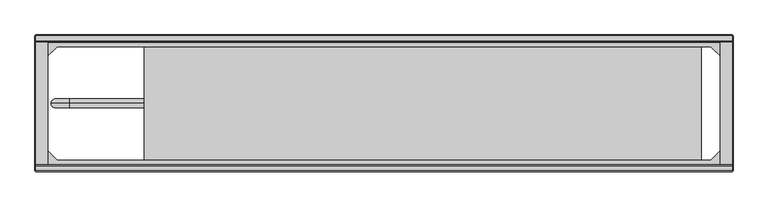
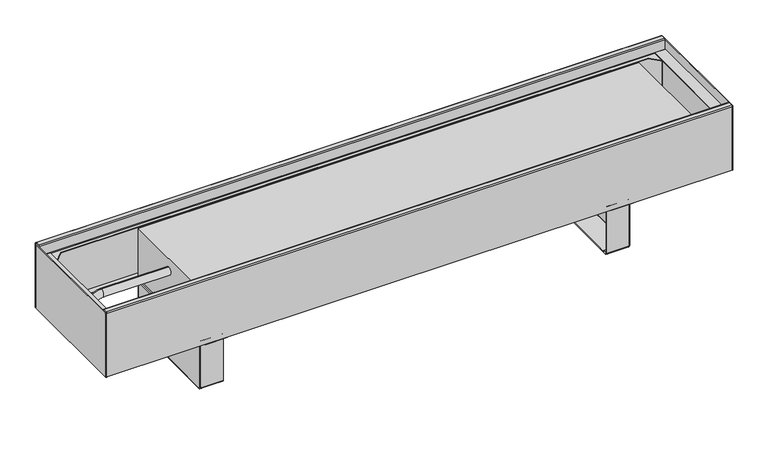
"""IFC4 building model written with IfcOpenShell, lengths in millimetres: proxy geometry, TECHNO_Конвектор напольный_Vita KPZ 235 : KPZ 235-130."""

from ifc_helpers import new_model, si_unit, point, frame, origin, place, context, project, spatial, polyline, circle_curve, ellipse_curve, trimmed, outline, extrude, source, transform, mapped, element, save
from ifc_brep_helpers import plane_surface, cylinder_surface, revolved_surface, advanced_brep


def mechanical_equipment_f0267359(model_context):
    return source(origin(), model_context, "Body", "SolidModel", [
        advanced_brep(
        [(409.7, -116.8, 1.5), (409.7, -114.5, 3.8), (409.7, -114.5, 4.9), (409.7, -116.0, 4.9), (409.7, -116.0, 3.8), (409.7, -116.8, 3.0), (409.7, -124.5, 3.0), (409.7, -124.5, 1.5), (409.7, -117.6, 1.5), (409.7, -114.5, 97.7), (409.7, -113.7, 98.5), (409.7, -101.0, 98.5), (409.7, -101.0, 100.0), (409.7, -113.7, 100.0), (409.7, -116.0, 97.7), (409.7, -116.0, 95.5), (409.7, -114.5, 95.5), (409.7, -320.5, 3.8), (409.7, -318.2, 1.5), (409.7, -317.4, 1.5), (409.7, -310.5, 1.5), (409.7, -310.5, 3.0), (409.7, -318.2, 3.0), (409.7, -319.0, 3.8), (409.7, -319.0, 4.9), (409.7, -320.5, 4.9), (409.7, -319.0, 97.7), (409.7, -321.3, 100.0), (409.7, -334.0, 100.0), (409.7, -334.0, 98.5), (409.7, -321.3, 98.5), (409.7, -320.5, 97.7), (409.7, -320.5, 95.5), (409.7, -319.0, 95.5), (367.0, -320.5, 97.7), (367.0, -321.3, 98.5), (367.0, -334.0, 98.5), (367.0, -334.0, 100.0), (367.0, -321.3, 100.0), (367.0, -319.0, 97.7), (367.0, -319.0, 3.8), (367.0, -318.2, 3.0), (367.0, -310.5, 3.0), (367.0, -310.5, 1.5), (367.0, -124.5, 1.5), (367.0, -124.5, 3.0), (367.0, -116.8, 3.0), (367.0, -116.0, 3.8), (367.0, -116.0, 97.7), (367.0, -113.7, 100.0), (367.0, -101.0, 100.0), (367.0, -101.0, 98.5), (367.0, -113.7, 98.5), (367.0, -114.5, 97.7), (367.0, -114.5, 3.8), (367.0, -116.8, 1.5), (367.0, -117.6, 1.5), (367.0, -117.6, 0.0), (367.0, -317.4, 0.0), (367.0, -317.4, 1.5), (367.0, -318.2, 1.5), (367.0, -320.5, 3.8), (410.5, -116.8, 95.5), (410.5, -318.2, 95.5), (412.0, -318.2, 95.5), (412.0, -116.8, 95.5), (412.0, -116.8, 4.9), (412.0, -117.6, 4.9), (410.5, -117.6, 4.9), (410.5, -116.8, 4.9), (410.5, -318.2, 4.9), (410.5, -317.4, 4.9), (412.0, -317.4, 4.9), (412.0, -318.2, 4.9), (410.5, -117.6, 2.3), (410.5, -317.4, 2.3), (411.9999999, -317.4, 2.3), (412.0, -117.6, 2.3), (409.7, -117.6, 0.0), (409.7, -317.4, 0.0)],
        [
            (0, 1, circle_curve(frame((409.7, -116.8, 3.8), z_axis=(1.0, 0.0, 0.0), x_axis=(0.0, -1.0, 0.0)), 2.3)),
            (1, 2),
            (2, 3),
            (3, 4),
            (4, 5, circle_curve(frame((409.7, -116.8, 3.8), z_axis=(-1.0, 0.0, 0.0), x_axis=(0.0, -1.0, 0.0)), 0.8)),
            (5, 6),
            (6, 7),
            (7, 8),
            (8, 0),
            (9, 10, circle_curve(frame((409.7, -113.7, 97.7), z_axis=(-1.0, 0.0, 0.0), x_axis=(0.0, -1.0, 0.0)), 0.8)),
            (10, 11),
            (11, 12),
            (12, 13),
            (13, 14, circle_curve(frame((409.7, -113.7, 97.7), z_axis=(1.0, 0.0, 0.0), x_axis=(0.0, -1.0, 0.0)), 2.3)),
            (14, 15),
            (15, 16),
            (16, 9),
            (17, 18, circle_curve(frame((409.7, -318.2, 3.8), z_axis=(1.0, 0.0, 0.0), x_axis=(0.0, -1.0, 0.0)), 2.3)),
            (18, 19),
            (19, 20),
            (20, 21),
            (21, 22),
            (22, 23, circle_curve(frame((409.7, -318.2, 3.8), z_axis=(-1.0, 0.0, 0.0), x_axis=(0.0, -1.0, 0.0)), 0.8)),
            (23, 24),
            (24, 25),
            (25, 17),
            (26, 27, circle_curve(frame((409.7, -321.3, 97.7), z_axis=(1.0, 0.0, 0.0), x_axis=(0.0, -1.0, 0.0)), 2.3)),
            (27, 28),
            (28, 29),
            (29, 30),
            (30, 31, circle_curve(frame((409.7, -321.3, 97.7), z_axis=(-1.0, 0.0, 0.0), x_axis=(0.0, -1.0, 0.0)), 0.8)),
            (31, 32),
            (32, 33),
            (33, 26),
            (34, 35, circle_curve(frame((367.0, -321.3, 97.7), z_axis=(1.0, 0.0, 0.0), x_axis=(0.0, -1.0, 0.0)), 0.8)),
            (35, 36),
            (36, 37),
            (37, 38),
            (38, 39, circle_curve(frame((367.0, -321.3, 97.7), z_axis=(-1.0, 0.0, 0.0), x_axis=(0.0, -1.0, 0.0)), 2.3)),
            (39, 40),
            (40, 41, circle_curve(frame((367.0, -318.2, 3.8), z_axis=(1.0, 0.0, 0.0), x_axis=(0.0, -1.0, 0.0)), 0.8)),
            (41, 42),
            (42, 43),
            (43, 44),
            (44, 45),
            (45, 46),
            (46, 47, circle_curve(frame((367.0, -116.8, 3.8), z_axis=(1.0, 0.0, 0.0), x_axis=(0.0, -1.0, 0.0)), 0.8)),
            (47, 48),
            (48, 49, circle_curve(frame((367.0, -113.7, 97.7), z_axis=(-1.0, 0.0, 0.0), x_axis=(0.0, -1.0, 0.0)), 2.3)),
            (49, 50),
            (50, 51),
            (51, 52),
            (52, 53, circle_curve(frame((367.0, -113.7, 97.7), z_axis=(1.0, 0.0, 0.0), x_axis=(0.0, -1.0, 0.0)), 0.8)),
            (53, 54),
            (54, 55, circle_curve(frame((367.0, -116.8, 3.8), z_axis=(-1.0, 0.0, 0.0), x_axis=(0.0, -1.0, 0.0)), 2.3)),
            (55, 56),
            (56, 57),
            (57, 58),
            (58, 59),
            (59, 60),
            (60, 61, circle_curve(frame((367.0, -318.2, 3.8), z_axis=(-1.0, 0.0, 0.0), x_axis=(0.0, -1.0, 0.0)), 2.3)),
            (61, 34),
            (30, 35),
            (34, 31),
            (29, 36),
            (28, 37),
            (27, 38),
            (26, 39),
            (33, 24),
            (23, 40),
            (22, 41),
            (5, 46),
            (45, 6),
            (4, 47),
            (3, 15),
            (14, 48),
            (13, 49),
            (12, 50),
            (11, 51),
            (10, 52),
            (9, 53),
            (16, 2),
            (1, 54),
            (0, 55),
            (8, 56),
            (17, 61),
            (60, 18),
            (25, 32),
            (21, 42),
            (20, 43),
            (59, 19),
            (44, 7),
            (15, 62, circle_curve(frame((409.7, -116.8, 95.5), z_axis=(0.0, 0.0, -1.0), x_axis=(-1.0, 0.0, 0.0)), 0.8)),
            (62, 63),
            (63, 33, circle_curve(frame((409.7, -318.2, 95.5), z_axis=(0.0, 0.0, -1.0), x_axis=(-1.0, 0.0, 0.0)), 0.8)),
            (32, 64, circle_curve(frame((409.7, -318.2, 95.5), z_axis=(0.0, 0.0, 1.0), x_axis=(-1.0, 0.0, 0.0)), 2.3)),
            (64, 65),
            (65, 16, circle_curve(frame((409.7, -116.8, 95.5), z_axis=(0.0, 0.0, 1.0), x_axis=(-1.0, 0.0, 0.0)), 2.3)),
            (2, 66, circle_curve(frame((409.7, -116.8, 4.9), z_axis=(0.0, 0.0, -1.0), x_axis=(-1.0, 0.0, 0.0)), 2.3)),
            (66, 67),
            (67, 68),
            (68, 69),
            (69, 3, circle_curve(frame((409.7, -116.8, 4.9), z_axis=(0.0, 0.0, 1.0), x_axis=(-1.0, 0.0, 0.0)), 0.8)),
            (24, 70, circle_curve(frame((409.7, -318.2, 4.9), z_axis=(0.0, 0.0, 1.0), x_axis=(-1.0, 0.0, 0.0)), 0.8)),
            (70, 71),
            (71, 72),
            (72, 73),
            (73, 25, circle_curve(frame((409.7, -318.2, 4.9), z_axis=(0.0, 0.0, -1.0), x_axis=(-1.0, 0.0, 0.0)), 2.3)),
            (69, 62),
            (68, 74),
            (74, 75),
            (75, 71),
            (70, 63),
            (64, 73),
            (72, 76),
            (76, 77),
            (77, 67),
            (66, 65),
            (8, 74, circle_curve(frame((409.7, -117.6, 2.3), z_axis=(0.0, -1.0, 0.0), x_axis=(-1.0, 0.0, 0.0)), 0.8)),
            (77, 78, circle_curve(frame((409.7, -117.6, 2.3), z_axis=(0.0, 1.0, 0.0), x_axis=(-1.0, 0.0, 0.0)), 2.3)),
            (78, 57),
            (58, 79),
            (79, 76, circle_curve(frame((409.7, -317.4, 2.3), z_axis=(0.0, -1.0, 0.0), x_axis=(-1.0, 0.0, 0.0)), 2.3)),
            (75, 19, circle_curve(frame((409.7, -317.4, 2.3), z_axis=(0.0, 1.0, 0.0), x_axis=(-1.0, 0.0, 0.0)), 0.8)),
            (20, 7),
            (79, 78),
        ],
        [
            plane_surface(frame((409.7, -322.1, 97.7), z_axis=(1.0, 0.0, 0.0), x_axis=(0.0, 0.0, 1.0))),
            plane_surface(frame((367.0, -322.1, 97.7), z_axis=(-1.0, 0.0, 0.0), x_axis=(0.0, 0.0, -1.0))),
            revolved_surface(polyline([(409.7, -322.1, 97.7), (367.0, -322.1, 97.7)]), (409.7, -321.3, 97.7), (1.0, 0.0, 0.0)),
            plane_surface(frame((367.0, -321.3, 98.5), z_axis=(0.0, 0.0, -1.0), x_axis=(1.0, 0.0, 0.0))),
            plane_surface(frame((367.0, -334.0, 98.5), z_axis=(0.0, -1.0, 0.0), x_axis=(1.0, 0.0, 0.0))),
            plane_surface(frame((367.0, -334.0, 100.0), z_axis=(0.0, 0.0, 1.0), x_axis=(1.0, 0.0, 0.0))),
            cylinder_surface(frame((409.7, -321.3, 97.7), z_axis=(-1.0, 0.0, 0.0), x_axis=(0.0, -1.0, 0.0)), 2.3),
            plane_surface(frame((367.0, -319.0, 97.7), z_axis=(0.0, 1.0, 3.691903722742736e-12), x_axis=(1.0, 0.0, 0.0))),
            revolved_surface(polyline([(409.7, -319.0, 3.8), (367.0, -319.0, 3.8)]), (409.7, -318.2, 3.8), (1.0, 0.0, 0.0)),
            plane_surface(frame((367.0, -124.5, 3.0), z_axis=(0.0, 0.0, 1.0), x_axis=(1.0, 0.0, 0.0))),
            revolved_surface(polyline([(409.7, -117.6, 3.8), (367.0, -117.6, 3.8)]), (412.0, -116.8, 3.8), (1.0, 0.0, 0.0)),
            plane_surface(frame((367.0, -116.0, 3.8), z_axis=(0.0, -1.0, 0.0), x_axis=(1.0, 0.0, 0.0))),
            cylinder_surface(frame((412.0, -113.7, 97.7), z_axis=(-1.0, 0.0, 0.0), x_axis=(0.0, -1.0, 0.0)), 2.3),
            plane_surface(frame((367.0, -113.7, 100.0), z_axis=(0.0, 0.0, 1.0), x_axis=(1.0, 0.0, 0.0))),
            plane_surface(frame((367.0, -101.0, 100.0), z_axis=(0.0, 1.0, 0.0), x_axis=(1.0, 0.0, 0.0))),
            plane_surface(frame((367.0, -101.0, 98.5), z_axis=(0.0, 0.0, -1.0), x_axis=(1.0, 0.0, 0.0))),
            revolved_surface(polyline([(409.7, -114.5, 97.7), (367.0, -114.5, 97.7)]), (412.0, -113.7, 97.7), (1.0, 0.0, 0.0)),
            plane_surface(frame((367.0, -114.5, 97.7), z_axis=(0.0, 1.0, 0.0), x_axis=(1.0, 0.0, 0.0))),
            cylinder_surface(frame((412.0, -116.8, 3.8), z_axis=(-1.0, 0.0, 0.0), x_axis=(0.0, -1.0, 0.0)), 2.3),
            plane_surface(frame((367.0, -116.8, 1.5), z_axis=(0.0, 0.0, -1.0), x_axis=(1.0, 0.0, 0.0))),
            cylinder_surface(frame((409.7, -318.2, 3.8), z_axis=(-1.0, 0.0, 0.0), x_axis=(0.0, -1.0, 0.0)), 2.3),
            plane_surface(frame((367.0, -320.5, 3.8), z_axis=(0.0, -1.0, 0.0), x_axis=(1.0, 0.0, 0.0))),
            plane_surface(frame((367.0, -318.2, 3.0), z_axis=(0.0, 0.0, 1.0), x_axis=(1.0, 0.0, 0.0))),
            plane_surface(frame((367.0, -310.5, 3.0), z_axis=(0.0, 1.0, 0.0), x_axis=(1.0, 0.0, 0.0))),
            plane_surface(frame((367.0, -310.5, 1.5), z_axis=(0.0, 0.0, -1.0), x_axis=(1.0, 0.0, 0.0))),
            plane_surface(frame((367.0, -124.5, 1.5), z_axis=(0.0, -1.0, 0.0), x_axis=(1.0, 0.0, 0.0))),
            plane_surface(frame((409.7, -116.0, 95.5), z_axis=(0.0, 0.0, 1.0), x_axis=(0.0, -1.0, 0.0))),
            plane_surface(frame((409.7, -116.0, 4.9), z_axis=(0.0, 0.0, -1.0), x_axis=(0.0, 1.0, 0.0))),
            revolved_surface(polyline([(408.9, -116.8, 4.9), (408.9, -116.8, 95.5)]), (409.7, -116.8, 4.9), (0.0, 0.0, -1.0)),
            plane_surface(frame((410.5, -116.8, 95.5), z_axis=(-1.0, 0.0, 0.0), x_axis=(0.0, 0.0, -1.0))),
            plane_surface(frame((412.0, -117.6, 95.5), z_axis=(1.0, -4.3226800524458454e-10, 0.0), x_axis=(0.0, 0.0, -1.0))),
            cylinder_surface(frame((409.7, -116.8, 4.9), z_axis=(0.0, 0.0, 1.0), x_axis=(-1.0, 0.0, 0.0)), 2.3),
            cylinder_surface(frame((409.7, -318.2, 0.0), z_axis=(0.0, 0.0, 1.0), x_axis=(-1.0, 0.0, 0.0)), 2.3),
            revolved_surface(polyline([(408.9, -318.2, 4.9), (408.9, -318.2, 95.5)]), (409.7, -318.2, 0.0), (0.0, 0.0, -1.0)),
            plane_surface(frame((367.0, -117.6, 1.5), z_axis=(0.0, 1.0, 0.0), x_axis=(0.0, 0.0, 1.0))),
            plane_surface(frame((367.0, -317.4, 1.5), z_axis=(0.0, -1.0, 0.0), x_axis=(0.0, 0.0, -1.0))),
            plane_surface(frame((367.0, -117.6, 1.5), z_axis=(0.0, 0.0, 1.0), x_axis=(0.0, -1.0, 0.0))),
            revolved_surface(polyline([(408.9, -317.4, 2.3), (408.9, -117.6, 2.3)]), (409.7, -317.4, 2.3), (0.0, -1.0, 0.0)),
            cylinder_surface(frame((409.7, -317.4, 2.3), z_axis=(0.0, 1.0, 0.0), x_axis=(-1.0, 0.0, 0.0)), 2.3),
            plane_surface(frame((409.7, -117.6, 0.0), z_axis=(0.0, 0.0, -1.0), x_axis=(0.0, -1.0, 0.0))),
        ],
        [
            (0, [[1, 2, 3, 4, 5, 6, 7, 8, 9]]),
            (0, [[10, 11, 12, 13, 14, 15, 16, 17]]),
            (0, [[18, 19, 20, 21, 22, 23, 24, 25, 26]]),
            (0, [[27, 28, 29, 30, 31, 32, 33, 34]]),
            (1, [[35, 36, 37, 38, 39, 40, 41, 42, 43, 44, 45, 46, 47, 48, 49, 50, 51, 52, 53, 54, 55, 56, 57, 58, 59, 60, 61, 62]]),
            (2, [[-31, 63, -35, 64]]),
            (3, [[-30, 65, -36, -63]]),
            (4, [[-29, 66, -37, -65]]),
            (5, [[-28, 67, -38, -66]]),
            (6, [[-27, 68, -39, -67]]),
            (7, [[-40, -68, -34, 69, -24, 70]]),
            (8, [[-23, 71, -41, -70]]),
            (9, [[-6, 72, -46, 73]]),
            (10, [[-5, 74, -47, -72]]),
            (11, [[-48, -74, -4, 75, -15, 76]]),
            (12, [[-14, 77, -49, -76]]),
            (13, [[-13, 78, -50, -77]]),
            (14, [[-12, 79, -51, -78]]),
            (15, [[-11, 80, -52, -79]]),
            (16, [[-10, 81, -53, -80]]),
            (17, [[-54, -81, -17, 82, -2, 83]]),
            (18, [[-1, 84, -55, -83]]),
            (19, [[-84, -9, 85, -56]]),
            (20, [[-18, 86, -61, 87]]),
            (21, [[-62, -86, -26, 88, -32, -64]]),
            (22, [[-22, 89, -42, -71]]),
            (23, [[-21, 90, -43, -89]]),
            (24, [[-87, -60, 91, -19]]),
            (25, [[-7, -73, -45, 92]]),
            (26, [[93, 94, 95, -33, 96, 97, 98, -16]]),
            (27, [[99, 100, 101, 102, 103, -3]]),
            (27, [[104, 105, 106, 107, 108, -25]]),
            (28, [[-93, -75, -103, 109]]),
            (29, [[-94, -109, -102, 110, 111, 112, -105, 113]]),
            (30, [[-97, 114, -107, 115, 116, 117, -100, 118]]),
            (31, [[-98, -118, -99, -82]]),
            (32, [[-96, -88, -108, -114]]),
            (33, [[-95, -113, -104, -69]]),
            (34, [[-57, -85, 119, -110, -101, -117, 120, 121]]),
            (35, [[122, 123, -115, -106, -112, 124, -91, -59]]),
            (36, [[125, -92, -44, -90]]),
            (37, [[-119, -8, -125, -20, -124, -111]]),
            (38, [[-120, -116, -123, 126]]),
            (39, [[-121, -126, -122, -58]]),
        ],
    ),
        advanced_brep(
        [(-409.7, -318.2, 1.5), (-409.7, -320.5, 3.8), (-409.7, -320.5, 4.9), (-409.7, -319.0, 4.9), (-409.7, -319.0, 3.8), (-409.7, -318.2, 3.0), (-409.7, -310.5, 3.0), (-409.7, -310.5, 1.5), (-409.7, -317.4, 1.5), (-409.7, -320.5, 97.7), (-409.7, -321.3, 98.5), (-409.7, -334.0, 98.5), (-409.7, -334.0, 100.0), (-409.7, -321.3, 100.0), (-409.7, -319.0, 97.7), (-409.7, -319.0, 95.5), (-409.7, -320.5, 95.5), (-409.7, -114.5, 3.8), (-409.7, -116.8, 1.5), (-409.7, -117.6, 1.5), (-409.7, -124.5, 1.5), (-409.7, -124.5, 3.0), (-409.7, -116.8, 3.0), (-409.7, -116.0, 3.8), (-409.7, -116.0, 4.9), (-409.7, -114.5, 4.9), (-409.7, -116.0, 97.7), (-409.7, -113.7, 100.0), (-409.7, -101.0, 100.0), (-409.7, -101.0, 98.5), (-409.7, -113.7, 98.5), (-409.7, -114.5, 97.7), (-409.7, -114.5, 95.5), (-409.7, -116.0, 95.5), (-367.0, -114.5, 97.7), (-367.0, -113.7, 98.5), (-367.0, -101.0, 98.5), (-367.0, -101.0, 100.0), (-367.0, -113.7, 100.0), (-367.0, -116.0, 97.7), (-367.0, -116.0, 3.8), (-367.0, -116.8, 3.0), (-367.0, -124.5, 3.0), (-367.0, -124.5, 1.5), (-367.0, -310.5, 1.5), (-367.0, -310.5, 3.0), (-367.0, -318.2, 3.0), (-367.0, -319.0, 3.8), (-367.0, -319.0, 97.7), (-367.0, -321.3, 100.0), (-367.0, -334.0, 100.0), (-367.0, -334.0, 98.5), (-367.0, -321.3, 98.5), (-367.0, -320.5, 97.7), (-367.0, -320.5, 3.8), (-367.0, -318.2, 1.5), (-367.0, -317.4, 1.5), (-367.0, -317.4, 0.0), (-367.0, -117.6, 0.0), (-367.0, -117.6, 1.5), (-367.0, -116.8, 1.5), (-367.0, -114.5, 3.8), (-410.5, -318.2, 95.5), (-410.5, -116.8, 95.5), (-412.0, -116.8, 95.5), (-412.0, -318.2, 95.5), (-412.0, -318.2, 4.9), (-412.0, -317.4, 4.9), (-410.5, -317.4, 4.9), (-410.5, -318.2, 4.9), (-410.5, -116.8, 4.9), (-410.5, -117.6, 4.9), (-412.0, -117.6, 4.9), (-412.0, -116.8, 4.9), (-410.5, -317.4, 2.3), (-410.5, -117.6, 2.3), (-411.9999999, -117.6, 2.3), (-412.0, -317.4, 2.3), (-409.7, -317.4, 0.0), (-409.7, -117.6, 0.0)],
        [
            (0, 1, circle_curve(frame((-409.7, -318.2, 3.8), z_axis=(-1.0, 0.0, 0.0), x_axis=(0.0, 1.0, 0.0)), 2.3)),
            (1, 2),
            (2, 3),
            (3, 4),
            (4, 5, circle_curve(frame((-409.7, -318.2, 3.8), z_axis=(1.0, 0.0, 0.0), x_axis=(0.0, 1.0, 0.0)), 0.8)),
            (5, 6),
            (6, 7),
            (7, 8),
            (8, 0),
            (9, 10, circle_curve(frame((-409.7, -321.3, 97.7), z_axis=(1.0, 0.0, 0.0), x_axis=(0.0, 1.0, 0.0)), 0.8)),
            (10, 11),
            (11, 12),
            (12, 13),
            (13, 14, circle_curve(frame((-409.7, -321.3, 97.7), z_axis=(-1.0, 0.0, 0.0), x_axis=(0.0, 1.0, 0.0)), 2.3)),
            (14, 15),
            (15, 16),
            (16, 9),
            (17, 18, circle_curve(frame((-409.7, -116.8, 3.8), z_axis=(-1.0, 0.0, 0.0), x_axis=(0.0, 1.0, 0.0)), 2.3)),
            (18, 19),
            (19, 20),
            (20, 21),
            (21, 22),
            (22, 23, circle_curve(frame((-409.7, -116.8, 3.8), z_axis=(1.0, 0.0, 0.0), x_axis=(0.0, 1.0, 0.0)), 0.8)),
            (23, 24),
            (24, 25),
            (25, 17),
            (26, 27, circle_curve(frame((-409.7, -113.7, 97.7), z_axis=(-1.0, 0.0, 0.0), x_axis=(0.0, 1.0, 0.0)), 2.3)),
            (27, 28),
            (28, 29),
            (29, 30),
            (30, 31, circle_curve(frame((-409.7, -113.7, 97.7), z_axis=(1.0, 0.0, 0.0), x_axis=(0.0, 1.0, 0.0)), 0.8)),
            (31, 32),
            (32, 33),
            (33, 26),
            (34, 35, circle_curve(frame((-367.0, -113.7, 97.7), z_axis=(-1.0, 0.0, 0.0), x_axis=(0.0, 1.0, 0.0)), 0.8)),
            (35, 36),
            (36, 37),
            (37, 38),
            (38, 39, circle_curve(frame((-367.0, -113.7, 97.7), z_axis=(1.0, 0.0, 0.0), x_axis=(0.0, 1.0, 0.0)), 2.3)),
            (39, 40),
            (40, 41, circle_curve(frame((-367.0, -116.8, 3.8), z_axis=(-1.0, 0.0, 0.0), x_axis=(0.0, 1.0, 0.0)), 0.8)),
            (41, 42),
            (42, 43),
            (43, 44),
            (44, 45),
            (45, 46),
            (46, 47, circle_curve(frame((-367.0, -318.2, 3.8), z_axis=(-1.0, 0.0, 0.0), x_axis=(0.0, 1.0, 0.0)), 0.8)),
            (47, 48),
            (48, 49, circle_curve(frame((-367.0, -321.3, 97.7), z_axis=(1.0, 0.0, 0.0), x_axis=(0.0, 1.0, 0.0)), 2.3)),
            (49, 50),
            (50, 51),
            (51, 52),
            (52, 53, circle_curve(frame((-367.0, -321.3, 97.7), z_axis=(-1.0, 0.0, 0.0), x_axis=(0.0, 1.0, 0.0)), 0.8)),
            (53, 54),
            (54, 55, circle_curve(frame((-367.0, -318.2, 3.8), z_axis=(1.0, 0.0, 0.0), x_axis=(0.0, 1.0, 0.0)), 2.3)),
            (55, 56),
            (56, 57),
            (57, 58),
            (58, 59),
            (59, 60),
            (60, 61, circle_curve(frame((-367.0, -116.8, 3.8), z_axis=(1.0, 0.0, 0.0), x_axis=(0.0, 1.0, 0.0)), 2.3)),
            (61, 34),
            (30, 35),
            (34, 31),
            (29, 36),
            (28, 37),
            (27, 38),
            (26, 39),
            (33, 24),
            (23, 40),
            (22, 41),
            (5, 46),
            (45, 6),
            (4, 47),
            (3, 15),
            (14, 48),
            (13, 49),
            (12, 50),
            (11, 51),
            (10, 52),
            (9, 53),
            (16, 2),
            (1, 54),
            (0, 55),
            (8, 56),
            (17, 61),
            (60, 18),
            (25, 32),
            (21, 42),
            (20, 43),
            (59, 19),
            (44, 7),
            (15, 62, circle_curve(frame((-409.7, -318.2, 95.5), z_axis=(0.0, 0.0, -1.0), x_axis=(1.0, 0.0, 0.0)), 0.8)),
            (62, 63),
            (63, 33, circle_curve(frame((-409.7, -116.8, 95.5), z_axis=(0.0, 0.0, -1.0), x_axis=(1.0, 0.0, 0.0)), 0.8)),
            (32, 64, circle_curve(frame((-409.7, -116.8, 95.5), z_axis=(0.0, 0.0, 1.0), x_axis=(1.0, 0.0, 0.0)), 2.3)),
            (64, 65),
            (65, 16, circle_curve(frame((-409.7, -318.2, 95.5), z_axis=(0.0, 0.0, 1.0), x_axis=(1.0, 0.0, 0.0)), 2.3)),
            (2, 66, circle_curve(frame((-409.7, -318.2, 4.9), z_axis=(0.0, 0.0, -1.0), x_axis=(1.0, 0.0, 0.0)), 2.3)),
            (66, 67),
            (67, 68),
            (68, 69),
            (69, 3, circle_curve(frame((-409.7, -318.2, 4.9), z_axis=(0.0, 0.0, 1.0), x_axis=(1.0, 0.0, 0.0)), 0.8)),
            (24, 70, circle_curve(frame((-409.7, -116.8, 4.9), z_axis=(0.0, 0.0, 1.0), x_axis=(1.0, 0.0, 0.0)), 0.8)),
            (70, 71),
            (71, 72),
            (72, 73),
            (73, 25, circle_curve(frame((-409.7, -116.8, 4.9), z_axis=(0.0, 0.0, -1.0), x_axis=(1.0, 0.0, 0.0)), 2.3)),
            (69, 62),
            (68, 74),
            (74, 75),
            (75, 71),
            (70, 63),
            (64, 73),
            (72, 76),
            (76, 77),
            (77, 67),
            (66, 65),
            (8, 74, circle_curve(frame((-409.7, -317.4, 2.3), z_axis=(0.0, 1.0, 0.0), x_axis=(1.0, 0.0, 0.0)), 0.8)),
            (77, 78, circle_curve(frame((-409.7, -317.4, 2.3), z_axis=(0.0, -1.0, 0.0), x_axis=(1.0, 0.0, 0.0)), 2.3)),
            (78, 57),
            (58, 79),
            (79, 76, circle_curve(frame((-409.7, -117.6, 2.3), z_axis=(0.0, 1.0, 0.0), x_axis=(1.0, 0.0, 0.0)), 2.3)),
            (75, 19, circle_curve(frame((-409.7, -117.6, 2.3), z_axis=(0.0, -1.0, 0.0), x_axis=(1.0, 0.0, 0.0)), 0.8)),
            (20, 7),
            (79, 78),
        ],
        [
            plane_surface(frame((-409.7, -112.9, 97.7), z_axis=(-1.0, 0.0, 0.0), x_axis=(0.0, 0.0, 1.0))),
            plane_surface(frame((-367.0, -112.9, 97.7), z_axis=(1.0, 0.0, 0.0), x_axis=(0.0, 0.0, -1.0))),
            revolved_surface(polyline([(-409.7, -112.9, 97.7), (-367.0, -112.9, 97.7)]), (-409.7, -113.7, 97.7), (-1.0, 0.0, 0.0)),
            plane_surface(frame((-367.0, -113.7, 98.5), z_axis=(0.0, 0.0, -1.0), x_axis=(-1.0, 0.0, 0.0))),
            plane_surface(frame((-367.0, -101.0, 98.5), z_axis=(0.0, 1.0, 0.0), x_axis=(-1.0, 0.0, 0.0))),
            plane_surface(frame((-367.0, -101.0, 100.0), z_axis=(0.0, 0.0, 1.0), x_axis=(-1.0, 0.0, 0.0))),
            cylinder_surface(frame((-409.7, -113.7, 97.7), z_axis=(1.0, 0.0, 0.0), x_axis=(0.0, 1.0, 0.0)), 2.3),
            plane_surface(frame((-367.0, -116.0, 97.7), z_axis=(0.0, -1.0, 3.691903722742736e-12), x_axis=(-1.0, 0.0, 0.0))),
            revolved_surface(polyline([(-409.7, -116.0, 3.8), (-367.0, -116.0, 3.8)]), (-409.7, -116.8, 3.8), (-1.0, 0.0, 0.0)),
            plane_surface(frame((-367.0, -310.5, 3.0), z_axis=(0.0, 0.0, 1.0), x_axis=(-1.0, 0.0, 0.0))),
            revolved_surface(polyline([(-409.7, -317.4, 3.8), (-367.0, -317.4, 3.8)]), (-412.0, -318.2, 3.8), (-1.0, 0.0, 0.0)),
            plane_surface(frame((-367.0, -319.0, 3.8), z_axis=(0.0, 1.0, 0.0), x_axis=(-1.0, 0.0, 0.0))),
            cylinder_surface(frame((-412.0, -321.3, 97.7), z_axis=(1.0, 0.0, 0.0), x_axis=(0.0, 1.0, 0.0)), 2.3),
            plane_surface(frame((-367.0, -321.3, 100.0), z_axis=(0.0, 0.0, 1.0), x_axis=(-1.0, 0.0, 0.0))),
            plane_surface(frame((-367.0, -334.0, 100.0), z_axis=(0.0, -1.0, 0.0), x_axis=(-1.0, 0.0, 0.0))),
            plane_surface(frame((-367.0, -334.0, 98.5), z_axis=(0.0, 0.0, -1.0), x_axis=(-1.0, 0.0, 0.0))),
            revolved_surface(polyline([(-409.7, -320.5, 97.7), (-367.0, -320.5, 97.7)]), (-412.0, -321.3, 97.7), (-1.0, 0.0, 0.0)),
            plane_surface(frame((-367.0, -320.5, 97.7), z_axis=(0.0, -1.0, 0.0), x_axis=(-1.0, 0.0, 0.0))),
            cylinder_surface(frame((-412.0, -318.2, 3.8), z_axis=(1.0, 0.0, 0.0), x_axis=(0.0, 1.0, 0.0)), 2.3),
            plane_surface(frame((-367.0, -318.2, 1.5), z_axis=(0.0, 0.0, -1.0), x_axis=(-1.0, 0.0, 0.0))),
            cylinder_surface(frame((-409.7, -116.8, 3.8), z_axis=(1.0, 0.0, 0.0), x_axis=(0.0, 1.0, 0.0)), 2.3),
            plane_surface(frame((-367.0, -114.5, 3.8), z_axis=(0.0, 1.0, 0.0), x_axis=(-1.0, 0.0, 0.0))),
            plane_surface(frame((-367.0, -116.8, 3.0), z_axis=(0.0, 0.0, 1.0), x_axis=(-1.0, 0.0, 0.0))),
            plane_surface(frame((-367.0, -124.5, 3.0), z_axis=(0.0, -1.0, 0.0), x_axis=(-1.0, 0.0, 0.0))),
            plane_surface(frame((-367.0, -124.5, 1.5), z_axis=(0.0, 0.0, -1.0), x_axis=(-1.0, 0.0, 0.0))),
            plane_surface(frame((-367.0, -310.5, 1.5), z_axis=(0.0, 1.0, 0.0), x_axis=(-1.0, 0.0, 0.0))),
            plane_surface(frame((-409.7, -319.0, 95.5), z_axis=(0.0, 0.0, 1.0), x_axis=(0.0, 1.0, 0.0))),
            plane_surface(frame((-409.7, -319.0, 4.9), z_axis=(0.0, 0.0, -1.0), x_axis=(0.0, -1.0, 0.0))),
            revolved_surface(polyline([(-408.9, -318.2, 4.9), (-408.9, -318.2, 95.5)]), (-409.7, -318.2, 4.9), (0.0, 0.0, -1.0)),
            plane_surface(frame((-410.5, -318.2, 95.5), z_axis=(1.0, 0.0, 0.0), x_axis=(0.0, 0.0, -1.0))),
            plane_surface(frame((-412.0, -317.4, 95.5), z_axis=(-1.0, 4.3226484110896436e-10, 0.0), x_axis=(0.0, 0.0, -1.0))),
            cylinder_surface(frame((-409.7, -318.2, 4.9), z_axis=(0.0, 0.0, 1.0), x_axis=(1.0, 0.0, 0.0)), 2.3),
            cylinder_surface(frame((-409.7, -116.8, 0.0), z_axis=(0.0, 0.0, 1.0), x_axis=(1.0, 0.0, 0.0)), 2.3),
            revolved_surface(polyline([(-408.9, -116.8, 4.9), (-408.9, -116.8, 95.5)]), (-409.7, -116.8, 0.0), (0.0, 0.0, -1.0)),
            plane_surface(frame((-367.0, -317.4, 1.5), z_axis=(0.0, -1.0, 0.0), x_axis=(0.0, 0.0, 1.0))),
            plane_surface(frame((-367.0, -117.6, 1.5), z_axis=(0.0, 1.0, 0.0), x_axis=(0.0, 0.0, -1.0))),
            plane_surface(frame((-367.0, -317.4, 1.5), z_axis=(0.0, 0.0, 1.0), x_axis=(0.0, 1.0, 0.0))),
            revolved_surface(polyline([(-408.9, -117.6, 2.3), (-408.9, -317.4, 2.3)]), (-409.7, -117.6, 2.3), (0.0, 1.0, 0.0)),
            cylinder_surface(frame((-409.7, -117.6, 2.3), z_axis=(0.0, -1.0, 0.0), x_axis=(1.0, 0.0, 0.0)), 2.3),
            plane_surface(frame((-409.7, -317.4, 0.0), z_axis=(0.0, 0.0, -1.0), x_axis=(0.0, 1.0, 0.0))),
        ],
        [
            (0, [[1, 2, 3, 4, 5, 6, 7, 8, 9]]),
            (0, [[10, 11, 12, 13, 14, 15, 16, 17]]),
            (0, [[18, 19, 20, 21, 22, 23, 24, 25, 26]]),
            (0, [[27, 28, 29, 30, 31, 32, 33, 34]]),
            (1, [[35, 36, 37, 38, 39, 40, 41, 42, 43, 44, 45, 46, 47, 48, 49, 50, 51, 52, 53, 54, 55, 56, 57, 58, 59, 60, 61, 62]]),
            (2, [[-31, 63, -35, 64]]),
            (3, [[-30, 65, -36, -63]]),
            (4, [[-29, 66, -37, -65]]),
            (5, [[-28, 67, -38, -66]]),
            (6, [[-27, 68, -39, -67]]),
            (7, [[-40, -68, -34, 69, -24, 70]]),
            (8, [[-23, 71, -41, -70]]),
            (9, [[-6, 72, -46, 73]]),
            (10, [[-5, 74, -47, -72]]),
            (11, [[-48, -74, -4, 75, -15, 76]]),
            (12, [[-14, 77, -49, -76]]),
            (13, [[-13, 78, -50, -77]]),
            (14, [[-12, 79, -51, -78]]),
            (15, [[-11, 80, -52, -79]]),
            (16, [[-10, 81, -53, -80]]),
            (17, [[-54, -81, -17, 82, -2, 83]]),
            (18, [[-1, 84, -55, -83]]),
            (19, [[-84, -9, 85, -56]]),
            (20, [[-18, 86, -61, 87]]),
            (21, [[-62, -86, -26, 88, -32, -64]]),
            (22, [[-22, 89, -42, -71]]),
            (23, [[-21, 90, -43, -89]]),
            (24, [[-87, -60, 91, -19]]),
            (25, [[-7, -73, -45, 92]]),
            (26, [[93, 94, 95, -33, 96, 97, 98, -16]]),
            (27, [[99, 100, 101, 102, 103, -3]]),
            (27, [[104, 105, 106, 107, 108, -25]]),
            (28, [[-93, -75, -103, 109]]),
            (29, [[-94, -109, -102, 110, 111, 112, -105, 113]]),
            (30, [[-97, 114, -107, 115, 116, 117, -100, 118]]),
            (31, [[-98, -118, -99, -82]]),
            (32, [[-96, -88, -108, -114]]),
            (33, [[-95, -113, -104, -69]]),
            (34, [[-57, -85, 119, -110, -101, -117, 120, 121]]),
            (35, [[122, 123, -115, -106, -112, 124, -91, -59]]),
            (36, [[125, -92, -44, -90]]),
            (37, [[-119, -8, -125, -20, -124, -111]]),
            (38, [[-120, -116, -123, 126]]),
            (39, [[-121, -126, -122, -58]]),
        ],
    ),
        advanced_brep(
        [(-412.0, -217.5, 186.5), (-412.0, -217.5, 171.5), (-540.0, -217.5, 186.5), (-540.0, -217.5, 171.5), (-557.5, -217.5, 154.0), (-572.5, -217.5, 154.0), (-572.5, -217.5, 100.0), (-557.5, -217.5, 100.0)],
        [
            (0, 1, circle_curve(frame((-412.0, -217.5, 179.0), z_axis=(1.0, 0.0, 0.0), x_axis=(0.0, 0.0, -1.0)), 7.5)),
            (1, 0, circle_curve(frame((-412.0, -217.5, 179.0), z_axis=(1.0, 0.0, 0.0), x_axis=(0.0, 0.0, -1.0)), 7.5)),
            (0, 2),
            (2, 3, circle_curve(frame((-540.0, -217.5, 179.0), z_axis=(1.0, 0.0, 0.0), x_axis=(0.0, 0.0, -1.0)), 7.5)),
            (3, 1),
            (3, 2, circle_curve(frame((-540.0, -217.5, 179.0), z_axis=(1.0, 0.0, 0.0), x_axis=(0.0, 0.0, -1.0)), 7.5)),
            (4, 3, circle_curve(frame((-540.0, -217.5, 154.0), z_axis=(0.0, 1.0, 0.0), x_axis=(0.0, 0.0, 1.0)), 17.5)),
            (2, 5, circle_curve(frame((-540.0, -217.5, 154.0), z_axis=(0.0, -1.0, 0.0), x_axis=(0.0, 0.0, 1.0)), 32.5)),
            (5, 4, circle_curve(frame((-565.0, -217.5, 154.0), z_axis=(0.0, 0.0, 1.0), x_axis=(1.0, 0.0, 0.0)), 7.5)),
            (4, 5, circle_curve(frame((-565.0, -217.5, 154.0), z_axis=(0.0, 0.0, 1.0), x_axis=(1.0, 0.0, 0.0)), 7.5)),
            (6, 7, circle_curve(frame((-565.0, -217.5, 100.0), z_axis=(0.0, 0.0, -1.0), x_axis=(1.0, 0.0, 0.0)), 7.5)),
            (7, 6, circle_curve(frame((-565.0, -217.5, 100.0), z_axis=(0.0, 0.0, -1.0), x_axis=(1.0, 0.0, 0.0)), 7.5)),
            (5, 6),
            (7, 4),
        ],
        [
            plane_surface(frame((-412.0, -217.5, 179.0), z_axis=(1.0, 0.0, 0.0), x_axis=(0.0, -1.0, 0.0))),
            cylinder_surface(frame((-412.0, -217.5, 179.0), z_axis=(1.0, 0.0, 0.0), x_axis=(0.0, 0.0, -1.0)), 7.5),
            revolved_surface(trimmed(ellipse_curve(frame((-540.0, -217.5, 179.0), z_axis=(1.0, 0.0, 0.0), x_axis=(0.0, 0.0, -1.0)), 7.5, 7.5), [point((-540.0, -217.5, 186.5))], [point((-540.0, -217.5, 171.5))], True, "CARTESIAN"), (-540.0, -217.5, 154.0), (0.0, -1.0, 0.0)),
            revolved_surface(trimmed(ellipse_curve(frame((-540.0, -217.5, 179.0), z_axis=(1.0, 0.0, 0.0), x_axis=(0.0, 0.0, -1.0)), 7.5, 7.5), [point((-540.0, -217.5, 171.5))], [point((-540.0, -217.5, 186.5))], True, "CARTESIAN"), (-540.0, -217.5, 154.0), (0.0, -1.0, 0.0)),
            plane_surface(frame((-565.0, -217.5, 100.0), z_axis=(0.0, 0.0, -1.0), x_axis=(0.0, -1.0, 0.0))),
            cylinder_surface(frame((-565.0, -217.5, 154.0), z_axis=(0.0, 0.0, 1.0), x_axis=(1.0, 0.0, 0.0)), 7.5),
        ],
        [
            (0, [[1, 2]]),
            (1, [[-1, 3, 4, 5]]),
            (1, [[-2, -5, 6, -3]]),
            (2, [[7, -4, 8, 9]]),
            (3, [[-8, -6, -7, 10]]),
            (4, [[11, 12]]),
            (5, [[-9, 13, -12, 14]]),
            (5, [[-10, -14, -11, -13]]),
        ],
    ),
        advanced_brep(
        [(-412.0, -217.5, 136.5), (-412.0, -217.5, 121.5), (-522.5, -217.5, 136.5), (-507.5, -217.5, 121.5), (-522.5, -217.5, 100.0), (-507.5, -217.5, 100.0)],
        [
            (0, 1, circle_curve(frame((-412.0, -217.5, 129.0), z_axis=(1.0, 0.0, 0.0), x_axis=(0.0, 0.0, -1.0)), 7.5)),
            (1, 0, circle_curve(frame((-412.0, -217.5, 129.0), z_axis=(1.0, 0.0, 0.0), x_axis=(0.0, 0.0, -1.0)), 7.5)),
            (0, 2),
            (2, 3, ellipse_curve(frame((-515.0, -217.5, 129.0), z_axis=(0.7071067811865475, 0.0, 0.7071067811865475), x_axis=(0.7071067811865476, 0.0, -0.7071067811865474)), 10.6066017, 7.5)),
            (3, 1),
            (3, 2, ellipse_curve(frame((-515.0, -217.5, 129.0), z_axis=(0.7071067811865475, 0.0, 0.7071067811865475), x_axis=(0.7071067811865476, 0.0, -0.7071067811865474)), 10.6066017, 7.5)),
            (4, 5, circle_curve(frame((-515.0, -217.5, 100.0), z_axis=(0.0, 0.0, -1.0), x_axis=(1.0, 0.0, 0.0)), 7.5)),
            (5, 4, circle_curve(frame((-515.0, -217.5, 100.0), z_axis=(0.0, 0.0, -1.0), x_axis=(1.0, 0.0, 0.0)), 7.5)),
            (2, 4),
            (5, 3),
        ],
        [
            plane_surface(frame((-412.0, -217.5, 129.0), z_axis=(1.0, 0.0, 0.0), x_axis=(0.0, -1.0, 0.0))),
            cylinder_surface(frame((-412.0, -217.5, 129.0), z_axis=(1.0, 0.0, 0.0), x_axis=(0.0, 0.0, -1.0)), 7.5),
            plane_surface(frame((-515.0, -217.5, 100.0), z_axis=(0.0, 0.0, -1.0), x_axis=(0.0, -1.0, 0.0))),
            cylinder_surface(frame((-515.0, -217.5, 129.0), z_axis=(0.0, 0.0, 1.0), x_axis=(1.0, 0.0, 0.0)), 7.5),
        ],
        [
            (0, [[1, 2]]),
            (1, [[-1, 3, 4, 5]]),
            (1, [[-2, -5, 6, -3]]),
            (2, [[7, 8]]),
            (3, [[-4, 9, -8, 10]]),
            (3, [[-6, -10, -7, -9]]),
        ],
    ),
        extrude(outline(polyline([(545.5, -117.5), (545.5, -317.5), (-412.0, -317.5), (-412.0, -117.5), (545.5, -117.5)])), frame((0.0, 0.0, 103.87), z_axis=(0.0, 0.0, 1.0), x_axis=(1.0, 0.0, 0.0)), (0.0, 0.0, 1.0), 100.0),
        extrude(outline(polyline([(-585.5004, -102.0), (-585.5004, -333.0), (-599.0, -333.0), (-599.0, -102.0), (-585.5004, -102.0)])), frame((0.0, 0.0, 101.83), z_axis=(0.0, 0.0, 1.0), x_axis=(1.0, 0.0, 0.0)), (0.0, 0.0, 1.0), 1.0002),
        extrude(outline(polyline([(585.5004, -102.0), (599.0, -102.0), (599.0, -333.0), (585.5004, -333.0), (585.5004, -102.0)])), frame((0.0, 0.0, 101.83), z_axis=(0.0, 0.0, 1.0), x_axis=(1.0, 0.0, 0.0)), (0.0, 0.0, 1.0), 1.0002),
        extrude(outline(polyline([(-599.0, -322.2), (-599.0, -112.8), (-578.0, -112.8), (-578.0, -322.2), (-599.0, -322.2)])), frame((0.0, 0.0, 208.83), z_axis=(0.0, 0.0, 1.0), x_axis=(1.0, 0.0, 0.0)), (0.0, 0.0, 1.0), 1.0002),
        extrude(outline(polyline([(599.0, -322.2), (578.0, -322.2), (578.0, -112.8), (599.0, -112.8), (599.0, -322.2)])), frame((0.0, 0.0, 208.83), z_axis=(0.0, 0.0, 1.0), x_axis=(1.0, 0.0, 0.0)), (0.0, 0.0, 1.0), 1.0002),
        advanced_brep(
        [(-598.2, -101.8, 230.83), (-598.2, -100.0, 229.03), (-598.2, -101.0, 229.03), (-598.2, -101.0, 207.83), (-598.2, -138.5, 207.83), (-598.2, -138.5, 208.83), (-598.2, -112.8, 208.83), (-598.2, -112.0, 209.63), (-598.2, -112.0, 229.03), (-598.2, -110.2, 230.83), (-598.2, -333.2, 230.83), (-598.2, -324.8, 230.83), (-598.2, -323.0, 229.03), (-598.2, -323.0, 209.63), (-598.2, -322.2, 208.83), (-598.2, -296.5, 208.83), (-598.2, -296.5, 207.83), (-598.2, -334.0, 207.83), (-598.2, -334.0, 229.03), (-598.2, -335.0, 229.03), (598.2, -101.8, 230.83), (598.2, -110.2, 230.83), (598.2, -112.0, 229.03), (598.2, -112.0, 209.63), (598.2, -112.8, 208.83), (598.2, -138.5, 208.83), (598.2, -138.5, 207.83), (598.2, -101.0, 207.83), (598.2, -101.0, 229.03), (598.2, -100.0, 229.03), (598.2, -333.2, 230.83), (598.2, -335.0, 229.03), (598.2, -334.0, 229.03), (598.2, -334.0, 207.83), (598.2, -296.5, 207.83), (598.2, -296.5, 208.83), (598.2, -322.2, 208.83), (598.2, -323.0, 209.63), (598.2, -323.0, 229.03), (598.2, -324.8, 230.83), (-580.3, -138.5, 208.83), (-561.8, -120.0, 208.83), (561.8, -120.0, 208.83), (580.3, -138.5, 208.83), (-580.3, -138.5, 207.83), (580.3, -138.5, 207.83), (561.8, -120.0, 207.83), (-561.8, -120.0, 207.83), (598.2, -100.0, 100.0), (-598.2, -100.0, 100.0), (-598.2, -335.0, 100.0), (598.2, -335.0, 100.0), (580.3, -296.5, 207.83), (-580.3, -296.5, 207.83), (-561.8, -315.0, 207.83), (561.8, -315.0, 207.83), (-580.3, -296.5, 208.83), (580.3, -296.5, 208.83), (561.8, -315.0, 208.83), (-561.8, -315.0, 208.83), (-600.0, -101.8, 229.03), (-600.0, -333.2, 229.03), (-599.0, -333.2, 229.03), (-599.0, -101.8, 229.03), (600.0, -333.2, 229.03), (600.0, -101.8, 229.03), (599.0, -101.8, 229.03), (599.0, -333.2, 229.03), (600.0, -101.8, 100.0), (600.0, -333.2, 100.0), (-600.0, -333.2, 100.0), (-600.0, -101.8, 100.0), (599.0, -101.8, 100.0), (598.2, -101.0, 100.0), (598.2, -113.0, 100.0), (-598.2, -113.0, 100.0), (-598.2, -101.0, 100.0), (-599.0, -101.8, 100.0), (-599.0, -333.2, 100.0), (-598.2, -334.0, 100.0), (-598.2, -322.0, 100.0), (598.2, -322.0, 100.0), (598.2, -334.0, 100.0), (599.0, -333.2, 100.0), (-598.2, -101.0, 100.83), (598.2, -101.0, 100.83), (598.2, -334.0, 100.83), (-598.2, -334.0, 100.83), (-598.2, -113.0, 100.83), (598.2, -113.0, 100.83), (598.2, -322.0, 100.83), (-598.2, -322.0, 100.83)],
        [
            (0, 1, circle_curve(frame((-598.2, -101.8, 229.03), z_axis=(-1.0, 0.0, 0.0), x_axis=(0.0, 1.0, 0.0)), 1.8)),
            (1, 2),
            (2, 3),
            (3, 4),
            (4, 5),
            (5, 6),
            (6, 7, circle_curve(frame((-598.2, -112.8, 209.63), z_axis=(1.0, 0.0, 0.0), x_axis=(0.0, 1.0, 0.0)), 0.8)),
            (7, 8),
            (8, 9, circle_curve(frame((-598.2, -110.2, 229.03), z_axis=(-1.0, 0.0, 0.0), x_axis=(0.0, 1.0, 0.0)), 1.8)),
            (9, 0),
            (10, 11),
            (11, 12, circle_curve(frame((-598.2, -324.8, 229.03), z_axis=(-1.0, 0.0, 0.0), x_axis=(0.0, 1.0, 0.0)), 1.8)),
            (12, 13),
            (13, 14, circle_curve(frame((-598.2, -322.2, 209.63), z_axis=(1.0, 0.0, 0.0), x_axis=(0.0, 1.0, 0.0)), 0.8)),
            (14, 15),
            (15, 16),
            (16, 17),
            (17, 18),
            (18, 19),
            (19, 10, circle_curve(frame((-598.2, -333.2, 229.03), z_axis=(-1.0, 0.0, 0.0), x_axis=(0.0, 1.0, 0.0)), 1.8)),
            (20, 21),
            (21, 22, circle_curve(frame((598.2, -110.2, 229.03), z_axis=(1.0, 0.0, 0.0), x_axis=(0.0, 1.0, 0.0)), 1.8)),
            (22, 23),
            (23, 24, circle_curve(frame((598.2, -112.8, 209.63), z_axis=(-1.0, 0.0, 0.0), x_axis=(0.0, 1.0, 0.0)), 0.8)),
            (24, 25),
            (25, 26),
            (26, 27),
            (27, 28),
            (28, 29),
            (29, 20, circle_curve(frame((598.2, -101.8, 229.03), z_axis=(1.0, 0.0, 0.0), x_axis=(0.0, 1.0, 0.0)), 1.8)),
            (30, 31, circle_curve(frame((598.2, -333.2, 229.03), z_axis=(1.0, 0.0, 0.0), x_axis=(0.0, 1.0, 0.0)), 1.8)),
            (31, 32),
            (32, 33),
            (33, 34),
            (34, 35),
            (35, 36),
            (36, 37, circle_curve(frame((598.2, -322.2, 209.63), z_axis=(-1.0, 0.0, 0.0), x_axis=(0.0, 1.0, 0.0)), 0.8)),
            (37, 38),
            (38, 39, circle_curve(frame((598.2, -324.8, 229.03), z_axis=(1.0, 0.0, 0.0), x_axis=(0.0, 1.0, 0.0)), 1.8)),
            (39, 30),
            (9, 21),
            (20, 0),
            (8, 22),
            (7, 23),
            (6, 24),
            (5, 40),
            (40, 41),
            (41, 42),
            (42, 43),
            (43, 25),
            (4, 44),
            (44, 40),
            (43, 45),
            (45, 26),
            (45, 46),
            (46, 47),
            (47, 44),
            (3, 27),
            (1, 29),
            (29, 48),
            (48, 49),
            (49, 1),
            (19, 31),
            (30, 10),
            (19, 50),
            (50, 51),
            (51, 31),
            (52, 34),
            (33, 17),
            (16, 53),
            (53, 54),
            (54, 55),
            (55, 52),
            (15, 56),
            (56, 53),
            (52, 57),
            (57, 35),
            (14, 36),
            (57, 58),
            (58, 59),
            (59, 56),
            (13, 37),
            (12, 38),
            (11, 39),
            (42, 46),
            (41, 47),
            (58, 55),
            (54, 59),
            (1, 60, circle_curve(frame((-598.2, -101.8, 229.03), z_axis=(0.0, 0.0, 1.0), x_axis=(1.0, 0.0, 0.0)), 1.8)),
            (60, 61),
            (61, 19, circle_curve(frame((-598.2, -333.2, 229.03), z_axis=(0.0, 0.0, 1.0), x_axis=(1.0, 0.0, 0.0)), 1.8)),
            (18, 62, circle_curve(frame((-598.2, -333.2, 229.03), z_axis=(0.0, 0.0, -1.0), x_axis=(1.0, 0.0, 0.0)), 0.8)),
            (62, 63),
            (63, 2, circle_curve(frame((-598.2, -101.8, 229.03), z_axis=(0.0, 0.0, -1.0), x_axis=(1.0, 0.0, 0.0)), 0.8)),
            (31, 64, circle_curve(frame((598.2, -333.2, 229.03), z_axis=(0.0, 0.0, 1.0), x_axis=(1.0, 0.0, 0.0)), 1.8)),
            (64, 65),
            (65, 29, circle_curve(frame((598.2, -101.8, 229.03), z_axis=(0.0, 0.0, 1.0), x_axis=(1.0, 0.0, 0.0)), 1.8)),
            (28, 66, circle_curve(frame((598.2, -101.8, 229.03), z_axis=(0.0, 0.0, -1.0), x_axis=(1.0, 0.0, 0.0)), 0.8)),
            (66, 67),
            (67, 32, circle_curve(frame((598.2, -333.2, 229.03), z_axis=(0.0, 0.0, -1.0), x_axis=(1.0, 0.0, 0.0)), 0.8)),
            (48, 68, circle_curve(frame((598.2, -101.8, 100.0), z_axis=(0.0, 0.0, -1.0), x_axis=(1.0, 0.0, 0.0)), 1.8)),
            (68, 69),
            (69, 51, circle_curve(frame((598.2, -333.2, 100.0), z_axis=(0.0, 0.0, -1.0), x_axis=(1.0, 0.0, 0.0)), 1.8)),
            (50, 70, circle_curve(frame((-598.2, -333.2, 100.0), z_axis=(0.0, 0.0, -1.0), x_axis=(1.0, 0.0, 0.0)), 1.8)),
            (70, 71),
            (71, 49, circle_curve(frame((-598.2, -101.8, 100.0), z_axis=(0.0, 0.0, -1.0), x_axis=(1.0, 0.0, 0.0)), 1.8)),
            (72, 73, circle_curve(frame((598.2, -101.8, 100.0), z_axis=(0.0, 0.0, 1.0), x_axis=(1.0, 0.0, 0.0)), 0.8)),
            (73, 74),
            (74, 75),
            (75, 76),
            (76, 77, circle_curve(frame((-598.2, -101.8, 100.0), z_axis=(0.0, 0.0, 1.0), x_axis=(1.0, 0.0, 0.0)), 0.8)),
            (77, 78),
            (78, 79, circle_curve(frame((-598.2, -333.2, 100.0), z_axis=(0.0, 0.0, 1.0), x_axis=(1.0, 0.0, 0.0)), 0.8)),
            (79, 80),
            (80, 81),
            (81, 82),
            (82, 83, circle_curve(frame((598.2, -333.2, 100.0), z_axis=(0.0, 0.0, 1.0), x_axis=(1.0, 0.0, 0.0)), 0.8)),
            (83, 72),
            (71, 60),
            (63, 77),
            (76, 84),
            (84, 3),
            (84, 85),
            (85, 27),
            (85, 73),
            (72, 66),
            (83, 67),
            (64, 69),
            (68, 65),
            (82, 86),
            (86, 33),
            (86, 87),
            (87, 17),
            (87, 79),
            (78, 62),
            (70, 61),
            (88, 89),
            (89, 85),
            (84, 88),
            (90, 91),
            (91, 87),
            (86, 90),
            (74, 89),
            (88, 75),
            (80, 91),
            (90, 81),
        ],
        [
            plane_surface(frame((-598.2, -110.2, 230.83), z_axis=(-1.0, 0.0, 0.0), x_axis=(0.0, 1.0, 0.0))),
            plane_surface(frame((598.2, -110.2, 230.83), z_axis=(1.0, 0.0, 0.0), x_axis=(0.0, -1.0, 0.0))),
            plane_surface(frame((598.2, -101.8, 230.83), z_axis=(0.0, 0.0, 1.0), x_axis=(-1.0, 0.0, 0.0))),
            cylinder_surface(frame((-598.2, -110.2, 229.03), z_axis=(1.0, 0.0, 0.0), x_axis=(0.0, 1.0, 0.0)), 1.8),
            plane_surface(frame((598.2, -112.0, 229.03), z_axis=(0.0, -1.0, 0.0), x_axis=(-1.0, 0.0, 0.0))),
            revolved_surface(polyline([(-598.2, -112.0, 209.63), (598.2, -112.0, 209.63)]), (-598.2, -112.8, 209.63), (-1.0, 0.0, 0.0)),
            plane_surface(frame((598.2, -112.8, 208.83), z_axis=(0.0, 0.0, 1.0), x_axis=(-1.0, 0.0, 0.0))),
            plane_surface(frame((598.2, -138.5, 208.83), z_axis=(0.0, -1.0, 0.0), x_axis=(-1.0, 0.0, 0.0))),
            plane_surface(frame((598.2, -138.5, 207.83), z_axis=(0.0, 0.0, -1.0), x_axis=(-1.0, 0.0, 0.0))),
            plane_surface(frame((598.2, -100.0, 207.83), z_axis=(0.0, 1.0, 0.0), x_axis=(-1.0, 0.0, 0.0))),
            cylinder_surface(frame((-598.2, -101.8, 229.03), z_axis=(1.0, 0.0, 0.0), x_axis=(0.0, 1.0, 0.0)), 1.8),
            cylinder_surface(frame((0.0, -333.2, 229.03), z_axis=(1.0, 0.0, 0.0), x_axis=(0.0, 1.0, 0.0)), 1.8),
            plane_surface(frame((598.2, -335.0, 229.03), z_axis=(0.0, -1.0, 0.0), x_axis=(-1.0, 0.0, 0.0))),
            plane_surface(frame((598.2, -335.0, 207.83), z_axis=(0.0, 0.0, -1.0), x_axis=(-1.0, 0.0, 0.0))),
            plane_surface(frame((598.2, -296.5, 207.83), z_axis=(0.0, 1.0, 0.0), x_axis=(-1.0, 0.0, 0.0))),
            plane_surface(frame((598.2, -296.5, 208.83), z_axis=(0.0, 0.0, 1.0), x_axis=(-1.0, 0.0, 0.0))),
            revolved_surface(polyline([(-598.2, -321.4, 209.63), (598.2, -321.4, 209.63)]), (0.0, -322.2, 209.63), (-1.0, 0.0, 0.0)),
            plane_surface(frame((598.2, -323.0, 209.63), z_axis=(0.0, 1.0, 0.0), x_axis=(-1.0, 0.0, 0.0))),
            cylinder_surface(frame((0.0, -324.8, 229.03), z_axis=(1.0, 0.0, 0.0), x_axis=(0.0, 1.0, 0.0)), 1.8),
            plane_surface(frame((598.2, -324.8, 230.83), z_axis=(0.0, 0.0, 1.0), x_axis=(-1.0, 0.0, 0.0))),
            plane_surface(frame((580.3, -138.5, 208.83), z_axis=(-0.7071067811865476, -0.7071067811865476, 0.0), x_axis=(0.0, 0.0, -1.0))),
            plane_surface(frame((561.8, -120.0, 208.83), z_axis=(0.0, -1.0, 0.0), x_axis=(0.0, 0.0, -1.0))),
            plane_surface(frame((-561.8, -120.0, 208.83), z_axis=(0.7071067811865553, -0.7071067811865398, 0.0), x_axis=(0.0, 0.0, -1.0))),
            plane_surface(frame((-561.8, -315.0, 208.83), z_axis=(0.0, 1.0, 0.0), x_axis=(0.0, 0.0, -1.0))),
            plane_surface(frame((561.8, -315.0, 208.83), z_axis=(-0.7071067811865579, 0.7071067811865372, 0.0), x_axis=(0.0, 0.0, -1.0))),
            plane_surface(frame((-580.3, -296.5, 208.83), z_axis=(0.7071067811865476, 0.7071067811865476, 0.0), x_axis=(0.0, 0.0, -1.0))),
            plane_surface(frame((-598.2, -100.0, 229.03), z_axis=(0.0, 0.0, 1.0), x_axis=(-1.0, 0.0, 0.0))),
            plane_surface(frame((-598.2, -100.0, 100.0), z_axis=(0.0, 0.0, -1.0), x_axis=(1.0, 0.0, 0.0))),
            cylinder_surface(frame((-598.2, -101.8, 100.0), z_axis=(0.0, 0.0, 1.0), x_axis=(1.0, 0.0, 0.0)), 1.8),
            revolved_surface(polyline([(-597.4000000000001, -101.8, 100.0), (-597.4000000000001, -101.8, 229.03)]), (-598.2, -101.8, 0.0), (0.0, 0.0, -1.0)),
            plane_surface(frame((-598.2, -101.0, 229.03), z_axis=(0.0, -1.0, 0.0), x_axis=(0.0, 0.0, -1.0))),
            revolved_surface(polyline([(599.0, -101.8, 100.0), (599.0, -101.8, 229.03)]), (598.2, -101.8, 0.0), (0.0, 0.0, -1.0)),
            plane_surface(frame((599.0, -101.8, 229.03), z_axis=(-1.0, 0.0, 0.0), x_axis=(0.0, 0.0, -1.0))),
            plane_surface(frame((600.0, -333.2, 229.03), z_axis=(1.0, 0.0, 0.0), x_axis=(0.0, 0.0, -1.0))),
            cylinder_surface(frame((598.2, -101.8, 100.0), z_axis=(0.0, 0.0, 1.0), x_axis=(1.0, 0.0, 0.0)), 1.8),
            cylinder_surface(frame((598.2, -333.2, 100.0), z_axis=(0.0, 0.0, 1.0), x_axis=(1.0, 0.0, 0.0)), 1.8),
            revolved_surface(polyline([(599.0, -333.2, 100.0), (599.0, -333.2, 229.03)]), (598.2, -333.2, 0.0), (0.0, 0.0, -1.0)),
            plane_surface(frame((598.2, -334.0, 229.03), z_axis=(0.0, 1.0, 0.0), x_axis=(0.0, 0.0, -1.0))),
            revolved_surface(polyline([(-597.4000000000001, -333.2, 100.0), (-597.4000000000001, -333.2, 229.03)]), (-598.2, -333.2, 0.0), (0.0, 0.0, -1.0)),
            plane_surface(frame((-600.0, -101.8, 229.03), z_axis=(-1.0, 0.0, 0.0), x_axis=(0.0, 0.0, -1.0))),
            cylinder_surface(frame((-598.2, -333.2, 100.0), z_axis=(0.0, 0.0, 1.0), x_axis=(1.0, 0.0, 0.0)), 1.8),
            plane_surface(frame((-599.0, -333.2, 229.03), z_axis=(1.0, 0.0, 0.0), x_axis=(0.0, 0.0, -1.0))),
            plane_surface(frame((598.2, -113.0, 100.83), z_axis=(0.0, 0.0, 1.0), x_axis=(1.0, 0.0, 0.0))),
            plane_surface(frame((-598.2, -113.0, 100.83), z_axis=(0.0, -1.0, 0.0), x_axis=(0.0, 0.0, -1.0))),
            plane_surface(frame((598.2, -113.0, 100.83), z_axis=(1.0, 0.0, 0.0), x_axis=(0.0, 0.0, -1.0))),
            plane_surface(frame((-598.2, -101.0, 100.83), z_axis=(-1.0, 0.0, 0.0), x_axis=(0.0, 0.0, -1.0))),
            plane_surface(frame((598.2, -322.0, 100.83), z_axis=(0.0, 1.0, 0.0), x_axis=(0.0, 0.0, -1.0))),
            plane_surface(frame((-598.2, -322.0, 100.83), z_axis=(-1.0, 0.0, 0.0), x_axis=(0.0, 0.0, -1.0))),
            plane_surface(frame((598.2, -334.0, 100.83), z_axis=(1.0, 0.0, 0.0), x_axis=(0.0, 0.0, -1.0))),
        ],
        [
            (0, [[1, 2, 3, 4, 5, 6, 7, 8, 9, 10]]),
            (0, [[11, 12, 13, 14, 15, 16, 17, 18, 19, 20]]),
            (1, [[21, 22, 23, 24, 25, 26, 27, 28, 29, 30]]),
            (1, [[31, 32, 33, 34, 35, 36, 37, 38, 39, 40]]),
            (2, [[-10, 41, -21, 42]]),
            (3, [[-9, 43, -22, -41]]),
            (4, [[-8, 44, -23, -43]]),
            (5, [[-7, 45, -24, -44]]),
            (6, [[-6, 46, 47, 48, 49, 50, -25, -45]]),
            (7, [[-5, 51, 52, -46]]),
            (7, [[-26, -50, 53, 54]]),
            (8, [[-54, 55, 56, 57, -51, -4, 58, -27]]),
            (9, [[59, 60, 61, 62]]),
            (10, [[-1, -42, -30, -59]]),
            (11, [[-20, 63, -31, 64]]),
            (12, [[-63, 65, 66, 67]]),
            (13, [[68, -34, 69, -17, 70, 71, 72, 73]]),
            (14, [[-16, 74, 75, -70]]),
            (14, [[-35, -68, 76, 77]]),
            (15, [[-15, 78, -36, -77, 79, 80, 81, -74]]),
            (16, [[-14, 82, -37, -78]]),
            (17, [[-13, 83, -38, -82]]),
            (18, [[-12, 84, -39, -83]]),
            (19, [[-11, -64, -40, -84]]),
            (20, [[85, -55, -53, -49]]),
            (21, [[-85, -48, 86, -56]]),
            (22, [[-86, -47, -52, -57]]),
            (23, [[87, -72, 88, -80]]),
            (24, [[-87, -79, -76, -73]]),
            (25, [[-88, -71, -75, -81]]),
            (26, [[89, 90, 91, -19, 92, 93, 94, -2]]),
            (26, [[95, 96, 97, -29, 98, 99, 100, -32]]),
            (27, [[101, 102, 103, -66, 104, 105, 106, -61], [107, 108, 109, 110, 111, 112, 113, 114, 115, 116, 117, 118]]),
            (28, [[-89, -62, -106, 119]]),
            (29, [[-94, 120, -111, 121, 122, -3]]),
            (30, [[-58, -122, 123, 124]]),
            (31, [[-98, -28, -124, 125, -107, 126]]),
            (32, [[-99, -126, -118, 127]]),
            (33, [[-96, 128, -102, 129]]),
            (34, [[-97, -129, -101, -60]]),
            (35, [[-95, -67, -103, -128]]),
            (36, [[-100, -127, -117, 130, 131, -33]]),
            (37, [[-69, -131, 132, 133]]),
            (38, [[-92, -18, -133, 134, -113, 135]]),
            (39, [[-90, -119, -105, 136]]),
            (40, [[-91, -136, -104, -65]]),
            (41, [[-93, -135, -112, -120]]),
            (42, [[137, 138, -123, 139]]),
            (42, [[140, 141, -132, 142]]),
            (43, [[-109, 143, -137, 144]]),
            (44, [[-108, -125, -138, -143]]),
            (45, [[-110, -144, -139, -121]]),
            (46, [[-115, 145, -140, 146]]),
            (47, [[-114, -134, -141, -145]]),
            (48, [[-116, -146, -142, -130]]),
        ],
    ),
    ])


if __name__ == "__main__":
    model = new_model("IFC4")
    model_context = context("Model", 3, world=origin())
    ifc_project = project(units=[si_unit("LENGTHUNIT", "METRE", prefix="MILLI")], contexts=[model_context])
    site = spatial("IfcSite", under=ifc_project)
    building = spatial("IfcBuilding", under=site)
    placement = place(None, origin())
    mechanical_equipment_shape = mechanical_equipment_f0267359(model_context)
    element("IfcBuildingElementProxy", 1, Name="TECHNO_Конвектор напольный_Vita KPZ 235 : KPZ 235-130", ObjectType="TECHNO_Конвектор напольный_Vita KPZ 235 : KPZ 235-130", at=placement, inside=building, context=model_context, shape_type="MappedRepresentation", body=[
        mapped(mechanical_equipment_shape, transform((0.0, 0.0, 0.0), x_axis=(1.0, 0.0, 0.0), y_axis=(0.0, 1.0, 0.0), z_axis=(0.0, 0.0, 1.0))),
    ])
    save(model, "model.ifc")
